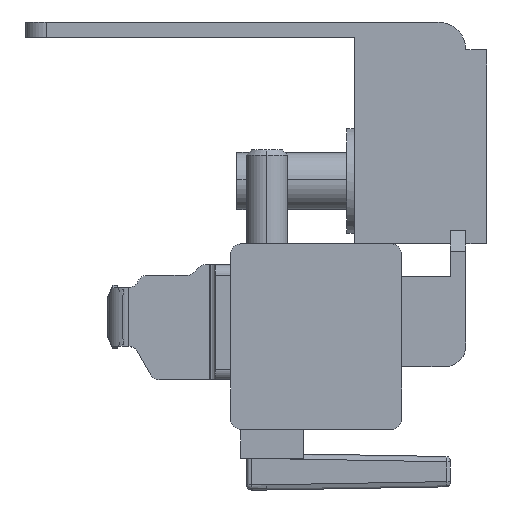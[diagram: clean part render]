
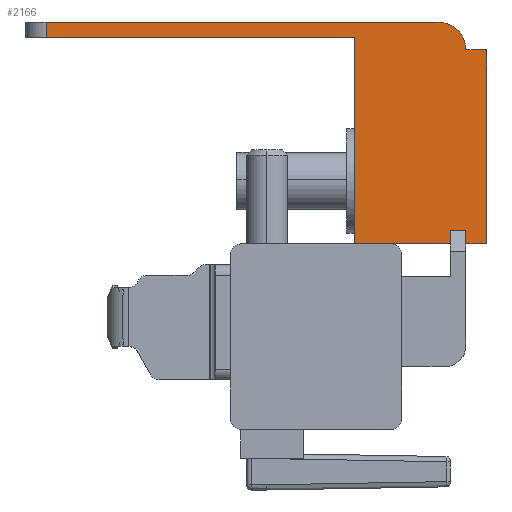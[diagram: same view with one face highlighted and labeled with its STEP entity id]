
A CAD part, left-side view. The second image highlights one B-rep face of the part: STEP entity #2166.
In plain terms, the highlighted planar face has unit normal (-1, 0, 0).
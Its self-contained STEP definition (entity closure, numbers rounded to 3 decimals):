
#37 = VECTOR ( 'NONE', #2145, 1000. ) ;
#86 = DIRECTION ( 'NONE',  ( 0., -1., 0. ) ) ;
#246 = LINE ( 'NONE', #5120, #2476 ) ;
#257 = DIRECTION ( 'NONE',  ( -1., 0., 0. ) ) ;
#311 = ORIENTED_EDGE ( 'NONE', *, *, #3349, .F. ) ;
#333 = VERTEX_POINT ( 'NONE', #3514 ) ;
#360 = CARTESIAN_POINT ( 'NONE',  ( -341., -29.063, 18.079 ) ) ;
#367 = CARTESIAN_POINT ( 'NONE',  ( -341., -25.663, 19.549 ) ) ;
#377 = DIRECTION ( 'NONE',  ( 0., 0., 1. ) ) ;
#395 = AXIS2_PLACEMENT_3D ( 'NONE', #2923, #257, #3386 ) ;
#440 = VECTOR ( 'NONE', #5285, 1000. ) ;
#465 = VERTEX_POINT ( 'NONE', #4435 ) ;
#570 = CARTESIAN_POINT ( 'NONE',  ( -341., -30.333, 16.879 ) ) ;
#1055 = VERTEX_POINT ( 'NONE', #5038 ) ;
#1090 = LINE ( 'NONE', #4869, #4560 ) ;
#1103 = LINE ( 'NONE', #4119, #5736 ) ;
#1189 = LINE ( 'NONE', #360, #37 ) ;
#1373 = EDGE_CURVE ( 'NONE', #2398, #3003, #1891, .T. ) ;
#1414 = DIRECTION ( 'NONE',  ( 0., 1., 0. ) ) ;
#1430 = CARTESIAN_POINT ( 'NONE',  ( -341., -17.713, 18.079 ) ) ;
#1571 = CARTESIAN_POINT ( 'NONE',  ( -341., -30.333, -1.651 ) ) ;
#1620 = LINE ( 'NONE', #5706, #440 ) ;
#1792 = ORIENTED_EDGE ( 'NONE', *, *, #5157, .T. ) ;
#1850 = DIRECTION ( 'NONE',  ( 0., 0., -1. ) ) ;
#1891 = LINE ( 'NONE', #5292, #3068 ) ;
#2020 = EDGE_CURVE ( 'NONE', #4226, #3122, #3725, .T. ) ;
#2048 = CARTESIAN_POINT ( 'NONE',  ( -341., 14.667, 19.549 ) ) ;
#2145 = DIRECTION ( 'NONE',  ( 0., 1., 0. ) ) ;
#2148 = DIRECTION ( 'NONE',  ( 0., -1., 0. ) ) ;
#2166 = ADVANCED_FACE ( 'NONE', ( #3935 ), #4410, .F. ) ;
#2268 = CARTESIAN_POINT ( 'NONE',  ( -341., -26.863, -1.651 ) ) ;
#2319 = EDGE_CURVE ( 'NONE', #4260, #2576, #1103, .T. ) ;
#2366 = ORIENTED_EDGE ( 'NONE', *, *, #4974, .T. ) ;
#2398 = VERTEX_POINT ( 'NONE', #5498 ) ;
#2476 = VECTOR ( 'NONE', #5561, 1000. ) ;
#2479 = VECTOR ( 'NONE', #4945, 1000. ) ;
#2576 = VERTEX_POINT ( 'NONE', #1571 ) ;
#2650 = CARTESIAN_POINT ( 'NONE',  ( -341., -26.863, -0.361 ) ) ;
#2859 = VERTEX_POINT ( 'NONE', #3568 ) ;
#2891 = EDGE_CURVE ( 'NONE', #4363, #4226, #5526, .T. ) ;
#2892 = VERTEX_POINT ( 'NONE', #4497 ) ;
#2900 = CARTESIAN_POINT ( 'NONE',  ( -341., -28.333, -0.361 ) ) ;
#2923 = CARTESIAN_POINT ( 'NONE',  ( -341., -25.663, 16.879 ) ) ;
#2960 = DIRECTION ( 'NONE',  ( 0., -1., 0. ) ) ;
#3003 = VERTEX_POINT ( 'NONE', #1430 ) ;
#3046 = DIRECTION ( 'NONE',  ( 0., 1., 0. ) ) ;
#3068 = VECTOR ( 'NONE', #377, 1000. ) ;
#3093 = ORIENTED_EDGE ( 'NONE', *, *, #2319, .F. ) ;
#3122 = VERTEX_POINT ( 'NONE', #4235 ) ;
#3202 = CARTESIAN_POINT ( 'NONE',  ( -341., -17.713, -1.651 ) ) ;
#3282 = ORIENTED_EDGE ( 'NONE', *, *, #3605, .F. ) ;
#3349 = EDGE_CURVE ( 'NONE', #333, #4363, #246, .T. ) ;
#3386 = DIRECTION ( 'NONE',  ( 0., 0., -1. ) ) ;
#3449 = ORIENTED_EDGE ( 'NONE', *, *, #2891, .F. ) ;
#3496 = VECTOR ( 'NONE', #86, 1000. ) ;
#3498 = EDGE_CURVE ( 'NONE', #2892, #5368, #5362, .T. ) ;
#3514 = CARTESIAN_POINT ( 'NONE',  ( -341., -28.333, -1.651 ) ) ;
#3568 = CARTESIAN_POINT ( 'NONE',  ( -341., -28.333, 16.879 ) ) ;
#3580 = EDGE_LOOP ( 'NONE', ( #3449, #311, #3985, #3093, #5791, #2366, #4084, #3734, #3282, #4669, #4623, #1792, #5488 ) ) ;
#3584 = VECTOR ( 'NONE', #1850, 1000. ) ;
#3605 = EDGE_CURVE ( 'NONE', #3003, #1055, #1189, .T. ) ;
#3725 = LINE ( 'NONE', #2268, #3584 ) ;
#3734 = ORIENTED_EDGE ( 'NONE', *, *, #3962, .T. ) ;
#3786 = LINE ( 'NONE', #3202, #3496 ) ;
#3935 = FACE_OUTER_BOUND ( 'NONE', #3580, .T. ) ;
#3962 = EDGE_CURVE ( 'NONE', #2892, #1055, #1620, .T. ) ;
#3985 = ORIENTED_EDGE ( 'NONE', *, *, #4762, .F. ) ;
#4084 = ORIENTED_EDGE ( 'NONE', *, *, #3498, .F. ) ;
#4119 = CARTESIAN_POINT ( 'NONE',  ( -341., -30.333, 16.879 ) ) ;
#4137 = VECTOR ( 'NONE', #4650, 1000. ) ;
#4184 = CARTESIAN_POINT ( 'NONE',  ( -341., -30.333, 16.879 ) ) ;
#4226 = VERTEX_POINT ( 'NONE', #4601 ) ;
#4235 = CARTESIAN_POINT ( 'NONE',  ( -341., -26.863, -1.651 ) ) ;
#4260 = VERTEX_POINT ( 'NONE', #570 ) ;
#4271 = AXIS2_PLACEMENT_3D ( 'NONE', #4861, #5741, #3046 ) ;
#4363 = VERTEX_POINT ( 'NONE', #2900 ) ;
#4410 = PLANE ( 'NONE',  #4271 ) ;
#4419 = LINE ( 'NONE', #4184, #4137 ) ;
#4435 = CARTESIAN_POINT ( 'NONE',  ( -341., -21.203, -1.651 ) ) ;
#4497 = CARTESIAN_POINT ( 'NONE',  ( -341., 11.767, 19.549 ) ) ;
#4560 = VECTOR ( 'NONE', #2148, 1000. ) ;
#4578 = DIRECTION ( 'NONE',  ( 0., 0., -1. ) ) ;
#4601 = CARTESIAN_POINT ( 'NONE',  ( -341., -26.863, -0.361 ) ) ;
#4623 = ORIENTED_EDGE ( 'NONE', *, *, #4760, .T. ) ;
#4650 = DIRECTION ( 'NONE',  ( 0., 1., 0. ) ) ;
#4669 = ORIENTED_EDGE ( 'NONE', *, *, #1373, .F. ) ;
#4708 = LINE ( 'NONE', #5468, #5731 ) ;
#4760 = EDGE_CURVE ( 'NONE', #2398, #465, #3786, .T. ) ;
#4762 = EDGE_CURVE ( 'NONE', #2576, #333, #4708, .T. ) ;
#4832 = EDGE_CURVE ( 'NONE', #4260, #2859, #4419, .T. ) ;
#4861 = CARTESIAN_POINT ( 'NONE',  ( -341., -29.063, 15.779 ) ) ;
#4869 = CARTESIAN_POINT ( 'NONE',  ( -341., -17.713, -1.651 ) ) ;
#4906 = CIRCLE ( 'NONE', #395, 2.67 ) ;
#4945 = DIRECTION ( 'NONE',  ( 0., 1., 0. ) ) ;
#4974 = EDGE_CURVE ( 'NONE', #2859, #5368, #4906, .T. ) ;
#5038 = CARTESIAN_POINT ( 'NONE',  ( -341., 11.767, 18.079 ) ) ;
#5120 = CARTESIAN_POINT ( 'NONE',  ( -341., -28.333, -1.651 ) ) ;
#5157 = EDGE_CURVE ( 'NONE', #465, #3122, #1090, .T. ) ;
#5217 = VECTOR ( 'NONE', #2960, 1000. ) ;
#5285 = DIRECTION ( 'NONE',  ( 0., 0., -1. ) ) ;
#5292 = CARTESIAN_POINT ( 'NONE',  ( -341., -17.713, -1.651 ) ) ;
#5362 = LINE ( 'NONE', #2048, #5217 ) ;
#5368 = VERTEX_POINT ( 'NONE', #367 ) ;
#5468 = CARTESIAN_POINT ( 'NONE',  ( -341., -30.333, -1.651 ) ) ;
#5488 = ORIENTED_EDGE ( 'NONE', *, *, #2020, .F. ) ;
#5498 = CARTESIAN_POINT ( 'NONE',  ( -341., -17.713, -1.651 ) ) ;
#5526 = LINE ( 'NONE', #2650, #2479 ) ;
#5561 = DIRECTION ( 'NONE',  ( 0., 0., 1. ) ) ;
#5706 = CARTESIAN_POINT ( 'NONE',  ( -341., 11.767, 17.779 ) ) ;
#5731 = VECTOR ( 'NONE', #1414, 1000. ) ;
#5736 = VECTOR ( 'NONE', #4578, 1000. ) ;
#5741 = DIRECTION ( 'NONE',  ( 1., 0., 0. ) ) ;
#5791 = ORIENTED_EDGE ( 'NONE', *, *, #4832, .T. ) ;
